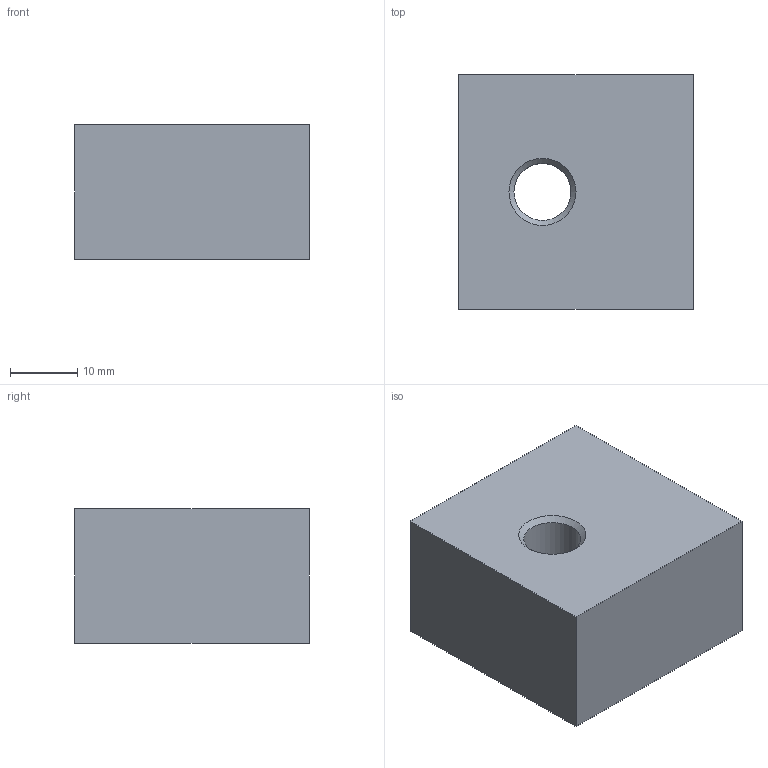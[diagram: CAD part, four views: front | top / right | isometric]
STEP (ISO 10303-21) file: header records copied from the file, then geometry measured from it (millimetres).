
FILE_DESCRIPTION(/* description */ (''),/* implementation_level */ '2;1');
FILE_NAME(/* name */ 'SYSTEM_SUPPORT_39.stp',/* time_stamp */ '2017-12-06T14:37:14+01:00',/* author */ (''),/* organization */ (''),/* preprocessor_version */ 'ST-DEVELOPER v16',/* originating_system */ 'SIEMENS PLM Software NX 10.0',/* authorisation */ '');
FILE_SCHEMA (('AP203_CONFIGURATION_CONTROLLED_3D_DESIGN_OF_MECHANICAL_PARTS_AND_ASSEMBLIES_MIM_LF { 1 0 10303 403 2 1 2}'));
Length unit declared in the file: millimetre
Products named in the file (1): turc1DB80072j4ms
Bounding box: 35 x 35 x 20 mm (x, y, z)
Volume: 22697.8 mm3; surface area: 6148.8 mm2
Topology: 1 solids, 1 shells, 15 faces, 42 edges, 29 vertices
Faces by surface type: plane 6, cone 6, cylinder 3
Full cylindrical faces by diameter (mm): 5 x2, 8.5 x1
Entity records: 483 total; most frequent: DIRECTION 76, CARTESIAN_POINT 64, ORIENTED_EDGE 44, AXIS2_PLACEMENT_3D 32, EDGE_LOOP 26, FACE_BOUND 25, EDGE_CURVE 22, VERTEX_POINT 20
